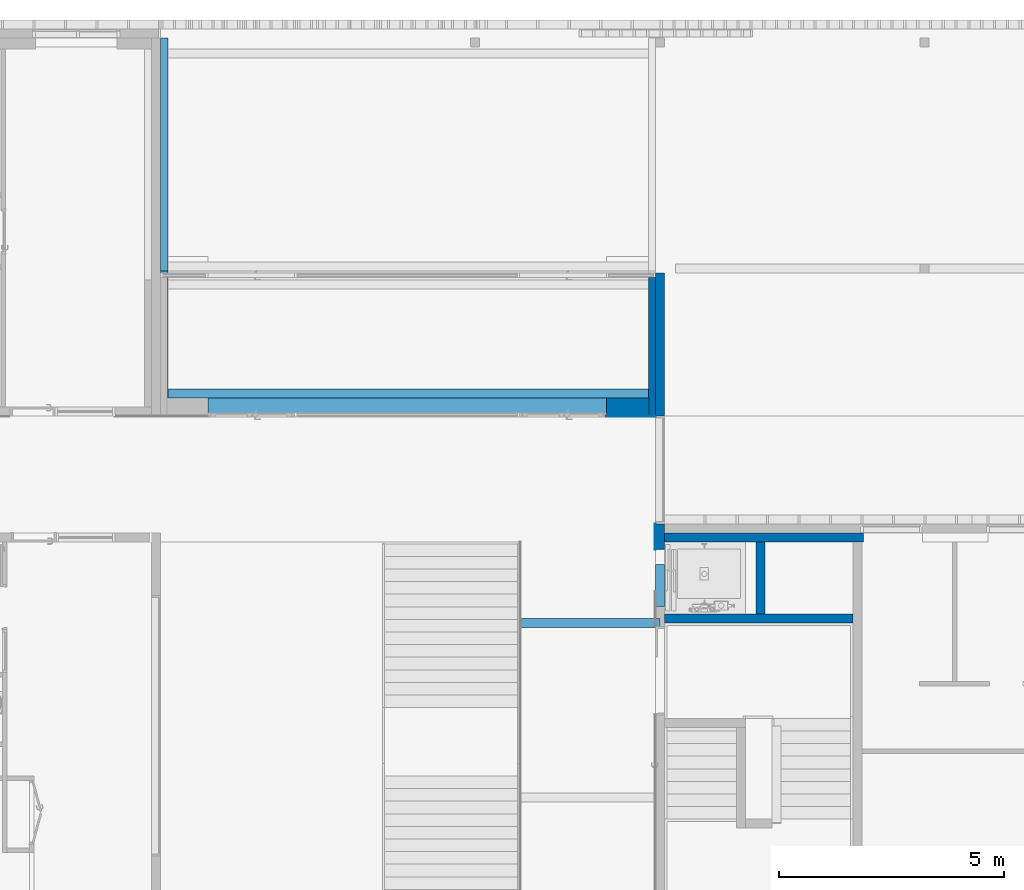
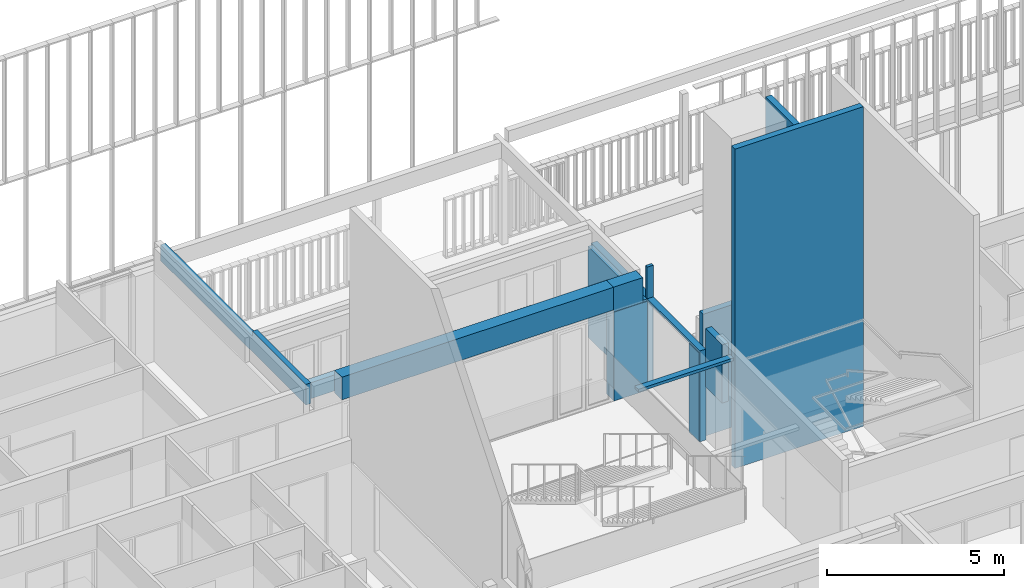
# One storey, part 159 of 240: 13 walls, 3 openings.
"""IFC2X3 building model written with IfcOpenShell, lengths in centimetres."""

import ifcopenshell
import ifcopenshell.guid

model = None  # the IFC model being written
_history = None  # IfcOwnerHistory: only IFC2X3 demands one
_inside = {}  # id of a spatial element -> (the spatial element, [elements in it])
_under = {}  # id of a project, library or spatial element -> (it, [spatial elements below it])
_declared = {}  # id of a project -> (the project, [libraries it declares])
_typed = {}  # id of a type object -> (the type object, [elements of that type])
_made_of = {}  # id of a material, layer set ... -> (it, [elements and type objects made of it])


def new_model(schema):
    """Start an empty IFC model of exactly this schema.

    Asked for "IFC4X3", IfcOpenShell would pick the latest addendum, in which some entities
    have other attributes; the version numbers below select the first issue.
    IFC2X3 requires an IfcOwnerHistory on every rooted entity: one is made here for all.
    """
    global model, _history
    if schema == "IFC4X3":
        model = ifcopenshell.file(schema_version=(4, 3, 0, 0))
    else:
        model = ifcopenshell.file(schema=schema)
    _inside.clear()
    _under.clear()
    _declared.clear()
    _typed.clear()
    _made_of.clear()
    _history = None
    if model.schema == "IFC2X3":
        org = make("IfcOrganization", Name="unknown")
        user = make(
            "IfcPersonAndOrganization",
            ThePerson=make("IfcPerson", FamilyName="unknown"),
            TheOrganization=org,
        )
        app = make(
            "IfcApplication",
            ApplicationDeveloper=org,
            Version="unknown",
            ApplicationFullName="unknown",
            ApplicationIdentifier="unknown",
        )
        _history = make(
            "IfcOwnerHistory",
            OwningUser=user,
            OwningApplication=app,
            ChangeAction="ADDED",
            CreationDate=0,
        )
    return model


def make(cls, **values):
    """One entity of the class cls with the attributes given. An attribute that is None is left unset."""
    return model.create_entity(
        cls, **{name: value for name, value in values.items() if value is not None}
    )


def entity(cls, *values):
    """Any entity or typed value of the class cls, its attributes in the order of the schema. None: left unset."""
    e = model.create_entity(cls)
    for i, value in enumerate(values):
        if value is not None:
            e[i] = value
    return e


def rooted(cls, **values):
    """An entity with a GlobalId (a new one), such as an element, a storey or a relation."""
    return make(cls, GlobalId=ifcopenshell.guid.new(), OwnerHistory=_history, **values)


def si_unit(unit_type, name, prefix=None):
    """IfcSIUnit, for example si_unit("LENGTHUNIT", "METRE", prefix="MILLI")."""
    return make("IfcSIUnit", UnitType=unit_type, Prefix=prefix, Name=name)


def converted_unit(unit_type, name, factor, base, dimensions=None, offset=None):
    """IfcConversionBasedUnit, such as the inch: factor (a typed value) times the base unit."""
    return make(
        "IfcConversionBasedUnit"
        if offset is None
        else "IfcConversionBasedUnitWithOffset",
        ConversionOffset=offset,
        Dimensions=None
        if dimensions is None
        else entity("IfcDimensionalExponents", *dimensions),
        UnitType=unit_type,
        Name=name,
        ConversionFactor=make(
            "IfcMeasureWithUnit", ValueComponent=factor, UnitComponent=base
        ),
    )


def derived_unit(unit_type, elements):
    """IfcDerivedUnit: a product of units, each with its exponent."""
    return make(
        "IfcDerivedUnit",
        Elements=[
            make("IfcDerivedUnitElement", Unit=unit, Exponent=power)
            for unit, power in elements
        ],
        UnitType=unit_type,
    )


def assignment(units):
    """IfcUnitAssignment: the units of a project."""
    return None if units is None else make("IfcUnitAssignment", Units=units)


def point(xyz):
    """IfcCartesianPoint."""
    return None if xyz is None else make("IfcCartesianPoint", Coordinates=xyz)


def direction(xyz):
    """IfcDirection."""
    return None if xyz is None else make("IfcDirection", DirectionRatios=xyz)


def frame(location, z_axis=None, x_axis=None):
    """IfcAxis2Placement3D, a coordinate frame: its origin and axes. An axis left out is left unset."""
    return make(
        "IfcAxis2Placement3D",
        Location=point(location),
        Axis=direction(z_axis),
        RefDirection=direction(x_axis),
    )


def frame_2d(location, x_axis=None):
    """IfcAxis2Placement2D, a coordinate frame in the plane: its origin and x axis."""
    return make(
        "IfcAxis2Placement2D", Location=point(location), RefDirection=direction(x_axis)
    )


def origin():
    """The frame at (0, 0, 0) with its axes left unset."""
    return frame((0.0, 0.0, 0.0))


def place(relative_to, where):
    """IfcLocalPlacement: puts the frame where relative to a parent placement (None: the world)."""
    return make(
        "IfcLocalPlacement", PlacementRelTo=relative_to, RelativePlacement=where
    )


def context(
    kind, dimensions, precision=None, world=None, true_north=None, identifier=None
):
    """IfcGeometricRepresentationContext, for example the 3D "Model" context."""
    return make(
        "IfcGeometricRepresentationContext",
        ContextIdentifier=identifier,
        ContextType=kind,
        CoordinateSpaceDimension=dimensions,
        Precision=precision,
        WorldCoordinateSystem=world,
        TrueNorth=true_north,
    )


def subcontext(parent, identifier, kind, view, scale=None):
    """IfcGeometricRepresentationSubContext, for example "Body" below "Model"."""
    return make(
        "IfcGeometricRepresentationSubContext",
        ContextIdentifier=identifier,
        ContextType=kind,
        ParentContext=parent,
        TargetScale=scale,
        TargetView=view,
    )


def project(units=None, contexts=None):
    """IfcProject with its units and contexts."""
    return rooted(
        "IfcProject",
        Name="project",
        RepresentationContexts=contexts,
        UnitsInContext=assignment(units),
    )


def spatial(cls, under=None, at=None, **own):
    """A site, building, storey or space (cls), placed at a placement, below another one or the project."""
    s = rooted(cls, ObjectPlacement=at, **own)
    if under is not None:
        _under.setdefault(under.id(), (under, []))[1].append(s)
    return s


def polyline(points):
    """IfcPolyline through the points."""
    return make("IfcPolyline", Points=[point(p) for p in points])


def profile(cls, at=None, kind="AREA", **sizes):
    """A parametric profile (cls). Its sizes go by their IFC names, for example OverallWidth=200.0."""
    return make(cls, ProfileType=kind, Position=at, **sizes)


def rectangle(**sizes):
    """IfcRectangleProfileDef."""
    return profile("IfcRectangleProfileDef", **sizes)


def extrude(swept, where, along, depth):
    """IfcExtrudedAreaSolid: the profile swept, set in the frame where, extruded along a direction by depth."""
    return make(
        "IfcExtrudedAreaSolid",
        SweptArea=swept,
        Position=where,
        ExtrudedDirection=direction(along),
        Depth=depth,
    )


def clip(a, b, op="DIFFERENCE"):
    """IfcBooleanClippingResult: the solid a cut by the half space b."""
    return make(
        "IfcBooleanClippingResult", Operator=op, FirstOperand=a, SecondOperand=b
    )


def bounded_halfspace(plane, agree, where, boundary):
    """IfcPolygonalBoundedHalfSpace: a half space limited to a polygon's prism."""
    return make(
        "IfcPolygonalBoundedHalfSpace",
        BaseSurface=make("IfcPlane", Position=plane),
        AgreementFlag=agree,
        Position=where,
        PolygonalBoundary=boundary,
    )


def shape(context_of_items, identifier, shape_type, items):
    """IfcShapeRepresentation: the items that make up one representation, for example the "Body"."""
    return make(
        "IfcShapeRepresentation",
        ContextOfItems=context_of_items,
        RepresentationIdentifier=identifier,
        RepresentationType=shape_type,
        Items=items,
    )


def material(Name=None, Category=None):
    """IfcMaterial."""
    return make("IfcMaterial", Name=Name, Category=Category)


def layer(
    of_material, thickness, ventilated=None, Name=None, Category=None, Priority=None
):
    """IfcMaterialLayer: one layer of a wall or slab, of a material (None: an air gap)."""
    return make(
        "IfcMaterialLayer",
        Material=of_material,
        LayerThickness=thickness,
        IsVentilated=ventilated,
        Name=Name,
        Category=Category,
        Priority=Priority,
    )


def layer_set(layers, Name=None):
    """IfcMaterialLayerSet."""
    return make("IfcMaterialLayerSet", MaterialLayers=layers, LayerSetName=Name)


def layer_usage(for_layer_set, set_direction, sense, offset, extent=None):
    """IfcMaterialLayerSetUsage: how a layer set lies in its element."""
    return make(
        "IfcMaterialLayerSetUsage",
        ForLayerSet=for_layer_set,
        LayerSetDirection=set_direction,
        DirectionSense=sense,
        OffsetFromReferenceLine=offset,
        ReferenceExtent=extent,
    )


def made_of(thing, what):
    """Note that an element or type object is made of a material, layer set ...; save() writes the relation."""
    if what is not None:
        _made_of.setdefault(what.id(), (what, []))[1].append(thing)
    return thing


def type_object(cls, material=None, **own):
    """A type object (cls), such as IfcWallType, which elements share."""
    return made_of(rooted(cls, **own), material)


def element(
    cls,
    number,
    at=None,
    inside=None,
    cuts=None,
    type_object=None,
    material=None,
    context=None,
    identifier="Body",
    shape_type=None,
    held_by="IfcProductDefinitionShape",
    body=None,
    shapes=None,
    **own,
):
    """One element of the class cls, such as IfcWall. Its Tag is "e" and its number.

    at: its placement. inside: the storey or other place that contains it. cuts: it is an
    opening in that element (IfcRelVoidsElement). A single representation is given by context,
    identifier, shape_type and body (its items); several are given by shapes. held_by: the class
    of the entity that holds the representations. save() writes the other relations.
    """
    e = rooted(cls, Tag="e%d" % number, ObjectPlacement=at, **own)
    if body is not None:
        shapes = [shape(context, identifier, shape_type, body)]
    if shapes is not None:
        e.Representation = make(held_by, Representations=shapes)
    if inside is not None:
        _inside.setdefault(inside.id(), (inside, []))[1].append(e)
    if cuts is not None:
        rooted(
            "IfcRelVoidsElement", RelatingBuildingElement=cuts, RelatedOpeningElement=e
        )
    if type_object is not None:
        _typed.setdefault(type_object.id(), (type_object, []))[1].append(e)
    return made_of(e, material)


def aggregate(whole, parts):
    """IfcRelAggregates: a whole, such as a stair, and the parts it consists of."""
    return rooted("IfcRelAggregates", RelatingObject=whole, RelatedObjects=parts)


def save(model, path):
    """Write the relations noted so far, then the file.

    IfcRelAggregates (storeys below a building ...), IfcRelContainedInSpatialStructure (elements
    in a storey), IfcRelDefinesByType, IfcRelAssociatesMaterial and IfcRelDeclares: one each for
    every whole, place, type object, material and project.
    """
    for whole, parts in _under.values():
        aggregate(whole, parts)
    for where, things in _inside.values():
        rooted(
            "IfcRelContainedInSpatialStructure",
            RelatedElements=things,
            RelatingStructure=where,
        )
    for kind, things in _typed.values():
        rooted("IfcRelDefinesByType", RelatedObjects=things, RelatingType=kind)
    for what, things in _made_of.values():
        rooted("IfcRelAssociatesMaterial", RelatedObjects=things, RelatingMaterial=what)
    for by, libraries in _declared.values():
        rooted("IfcRelDeclares", RelatingContext=by, RelatedDefinitions=libraries)
    model.write(path)


model = new_model("IFC2X3")

# Units and contexts
model_context = context("Model", 3, precision=0.001, world=origin(), true_north=direction((6.12303176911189e-17, 1.0)))
body_context = subcontext(model_context, "Body", "Model", "MODEL_VIEW")
ifc_project = project(units=[si_unit("LENGTHUNIT", "METRE", prefix="CENTI"), si_unit("AREAUNIT", "SQUARE_METRE"), si_unit("VOLUMEUNIT", "CUBIC_METRE"), converted_unit("PLANEANGLEUNIT", "DEGREE", entity("IfcRatioMeasure", 0.0174532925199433), si_unit("PLANEANGLEUNIT", "RADIAN"), dimensions=[0, 0, 0, 0, 0, 0, 0]), si_unit("MASSUNIT", "GRAM", prefix="KILO"), derived_unit("MASSDENSITYUNIT", [(si_unit("MASSUNIT", "GRAM", prefix="KILO"), 1), (si_unit("LENGTHUNIT", "METRE"), -3)]), si_unit("TIMEUNIT", "SECOND"), si_unit("FREQUENCYUNIT", "HERTZ"), si_unit("THERMODYNAMICTEMPERATUREUNIT", "DEGREE_CELSIUS"), derived_unit("THERMALTRANSMITTANCEUNIT", [(si_unit("MASSUNIT", "GRAM", prefix="KILO"), 1), (si_unit("THERMODYNAMICTEMPERATUREUNIT", "KELVIN"), -1), (si_unit("TIMEUNIT", "SECOND"), -3)]), derived_unit("VOLUMETRICFLOWRATEUNIT", [(si_unit("LENGTHUNIT", "METRE"), 3), (si_unit("TIMEUNIT", "SECOND"), -1)]), si_unit("ELECTRICCURRENTUNIT", "AMPERE"), si_unit("ELECTRICVOLTAGEUNIT", "VOLT"), si_unit("POWERUNIT", "WATT"), si_unit("FORCEUNIT", "NEWTON", prefix="KILO"), si_unit("ILLUMINANCEUNIT", "LUX"), si_unit("LUMINOUSFLUXUNIT", "LUMEN"), si_unit("LUMINOUSINTENSITYUNIT", "CANDELA"), derived_unit("USERDEFINED", [(si_unit("MASSUNIT", "GRAM", prefix="KILO"), -1), (si_unit("LENGTHUNIT", "METRE"), -2), (si_unit("TIMEUNIT", "SECOND"), 3), (si_unit("LUMINOUSFLUXUNIT", "LUMEN"), 1)]), derived_unit("LINEARVELOCITYUNIT", [(si_unit("LENGTHUNIT", "METRE"), 1), (si_unit("TIMEUNIT", "SECOND"), -1)]), si_unit("PRESSUREUNIT", "PASCAL"), derived_unit("USERDEFINED", [(si_unit("LENGTHUNIT", "METRE"), -2), (si_unit("MASSUNIT", "GRAM", prefix="KILO"), 1), (si_unit("TIMEUNIT", "SECOND"), -2)])], contexts=[model_context])

# Site, building, storey
site_placement = place(None, frame((-2781.94577612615, 7442.24238424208, 0.0)))
site = spatial("IfcSite", under=ifc_project, at=site_placement, Name="Default", CompositionType="ELEMENT")
building_placement = place(site_placement, origin())
building = spatial("IfcBuilding", under=site, at=building_placement, CompositionType="ELEMENT")
storey_placement = place(building_placement, origin())
storey = spatial("IfcBuildingStorey", under=building, at=storey_placement, Name="N00 - COO", CompositionType="ELEMENT", Elevation=0.0)

# Walls
ifc_material_1 = material(Name="01 - Maçonnerie")
ifc_layer_1 = layer(ifc_material_1, 20.0)
ifc_layer_set_1 = layer_set([ifc_layer_1], Name="Mur de base:04 - Structure - béton - 20cm")
ifc_layer_usage_1 = layer_usage(ifc_layer_set_1, "AXIS2", "NEGATIVE", 10.0)
wall_type_1 = type_object("IfcWallType", Name="Mur de base:04 - Structure - béton - 20cm", PredefinedType="STANDARD", material=ifc_layer_set_1)
wall_1_placement = place(building_placement, frame((-3647.99987968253, -1280.07903364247, 0.0)))
element("IfcWallStandardCase", 1, at=wall_1_placement, inside=storey, type_object=wall_type_1, material=ifc_layer_usage_1, Name="Mur de base:04 - Structure - béton - 20cm", ObjectType="Mur de base:04 - Structure - béton - 20cm", context=body_context, shape_type="SweptSolid", body=[
    extrude(rectangle(XDim=418.699996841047, YDim=19.9999999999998, at=frame_2d((209.349998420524, 3.10862446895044e-14), x_axis=(-1.0, 0.0))), origin(), (0.0, 0.0, 1.0), 1100.0),
])
ifc_layer_usage_2 = layer_usage(ifc_layer_set_1, "AXIS2", "NEGATIVE", 10.0)
wall_2_placement = place(building_placement, frame((-3434.49987968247, -1270.07903364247, 0.0), z_axis=(0.0, 0.0, 1.0), x_axis=(0.0, 1.0, 0.0)))
element("IfcWallStandardCase", 2, at=wall_2_placement, inside=storey, type_object=wall_type_1, material=ifc_layer_usage_2, Name="Mur de base:04 - Structure - béton - 20cm", ObjectType="Mur de base:04 - Structure - béton - 20cm", context=body_context, shape_type="Clipping", body=[
    clip(extrude(rectangle(XDim=160.079033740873, YDim=19.9999999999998, at=frame_2d((80.0395168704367, -2.30926389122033e-14), x_axis=(-1.0, 0.0))), origin(), (0.0, 0.0, 1.0), 1100.0), bounded_halfspace(frame((0.0, -10.0, 1100.0), z_axis=(0.0, 0.0, 1.0), x_axis=(-1.0, 0.0, 0.0)), False, frame((0.0, -10.0, 1100.0)), polyline([(0.0, 0.0), (160.079033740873, 0.0), (160.07903374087, 20.0), (0.0, 20.0), (0.0, 0.0)]))),
])
ifc_layer_usage_3 = layer_usage(ifc_layer_set_1, "AXIS2", "NEGATIVE", 10.0)
wall_3_placement = place(building_placement, frame((-3205.99987968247, -1100.0, 0.0), z_axis=(0.0, 0.0, 1.0), x_axis=(-1.0, 0.0, 0.0)))
element("IfcWallStandardCase", 3, at=wall_3_placement, inside=storey, type_object=wall_type_1, material=ifc_layer_usage_3, Name="Mur de base:04 - Structure - béton - 20cm", ObjectType="Mur de base:04 - Structure - béton - 20cm", context=body_context, shape_type="SweptSolid", body=[
    extrude(rectangle(XDim=442.0, YDim=19.9999999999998, at=frame_2d((221.0, 0.0), x_axis=(-1.0, 0.0))), origin(), (0.0, 0.0, 1.0), 422.0),
])

# Wall, openings
ifc_layer_usage_4 = layer_usage(ifc_layer_set_1, "AXIS2", "NEGATIVE", 10.0)
wall_4_placement = place(building_placement, frame((-3657.99987968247, -512.548500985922, 0.0), z_axis=(0.0, 0.0, 1.0), x_axis=(0.0, -1.0, 0.0)))
wall_4 = element("IfcWallStandardCase", 4, at=wall_4_placement, inside=storey, type_object=wall_type_1, material=ifc_layer_usage_4, Name="Mur de base:04 - Structure - béton - 20cm", ObjectType="Mur de base:04 - Structure - béton - 20cm", context=body_context, shape_type="Clipping", body=[
    clip(clip(clip(clip(extrude(rectangle(XDim=614.358269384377, YDim=19.9999999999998, at=frame_2d((307.179134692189, 3.5527136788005e-15), x_axis=(-1.0, 0.0))), origin(), (0.0, 0.0, 1.0), 422.0), bounded_halfspace(frame((0.0, -10.0, 313.0), z_axis=(0.0, 0.0, -1.0), x_axis=(0.0, 1.0, 0.0)), True, frame((0.0, -10.0, 313.0)), polyline([(0.0, 0.0), (10.0, 0.0), (307.499999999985, 0.0), (307.499999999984, 20.0), (0.0, 20.0), (0.0, 0.0)]))), bounded_halfspace(frame((307.499999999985, -10.0, 422.0), z_axis=(0.0, 0.0, 1.0), x_axis=(0.0, 1.0, 0.0)), False, frame((307.499999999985, -10.0, 422.0)), polyline([(0.0, 0.0), (10.0, 0.0), (10.0, 20.0), (0.0, 20.0), (0.0, 0.0)]))), bounded_halfspace(frame((614.358269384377, -10.0, 313.0), z_axis=(0.0, 0.0, 1.0), x_axis=(0.0, 1.0, 0.0)), False, frame((614.358269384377, -10.0, 313.0)), polyline([(0.0, 0.0), (0.0, 20.0), (-0.899999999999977, 20.0), (-296.858269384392, 20.0), (-296.858269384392, 0.0), (-0.899999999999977, 0.0), (0.0, 0.0)]))), bounded_halfspace(frame((0.0, -10.0, 313.0), z_axis=(0.0, 0.0, -1.0), x_axis=(0.0, 1.0, 0.0)), True, frame((0.0, -10.0, 313.0)), polyline([(0.0, 0.0), (10.0, 0.0), (307.499999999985, 0.0), (307.499999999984, 20.0), (0.0, 20.0), (0.0, 0.0)]))),
])
opening_1_placement = place(wall_4_placement, origin())
element("IfcOpeningElement", 5, at=opening_1_placement, cuts=wall_4, Name="Mur de base:04 - Structure - béton - 20cm", ObjectType="Opening", context=body_context, shape_type="SweptSolid", body=[
    extrude(rectangle(XDim=270.0, YDim=239.951498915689, at=frame_2d((0.0, 4.2632564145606e-14), x_axis=(0.0, 1.0))), frame((437.47574945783, -142.4, 557.0), z_axis=(0.0, 1.0, 0.0), x_axis=(-1.0, 0.0, 0.0)), (0.0, 0.0, 1.0), 304.8),
])
opening_2_placement = place(wall_4_placement, frame((557.451498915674, 10.0, 0.0)))
element("IfcOpeningElement", 6, at=opening_2_placement, cuts=wall_4, Name="châssis intérieur vitré:RDC - Pignon -  châssis intérieur vitré (3.11m):1", ObjectType="Opening", context=body_context, shape_type="SweptSolid", body=[
    extrude(rectangle(XDim=306.0, YDim=239.951498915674, at=frame_2d((153.0, 119.975749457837), x_axis=(1.0, 0.0))), frame((0.0, 0.0, 0.0), z_axis=(0.0, -1.0, 0.0), x_axis=(0.0, 0.0, 1.0)), (0.0, 0.0, 1.0), 20.0),
])

# Wall
ifc_layer_usage_5 = layer_usage(ifc_layer_set_1, "AXIS2", "NEGATIVE", 10.0)
wall_5_placement = place(building_placement, frame((-3657.99987968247, -1253.37226317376, 210.0), z_axis=(0.0, 0.0, 1.0), x_axis=(0.0, 1.0, 0.0)))
element("IfcWallStandardCase", 7, at=wall_5_placement, inside=storey, type_object=wall_type_1, material=ifc_layer_usage_5, Name="Mur de base:04 - Structure - béton - 20cm", ObjectType="Mur de base:04 - Structure - béton - 20cm", context=body_context, shape_type="SweptSolid", body=[
    extrude(rectangle(XDim=93.8237621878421, YDim=19.9999999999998, at=frame_2d((46.9118810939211, 0.0), x_axis=(-1.0, 0.0))), origin(), (0.0, 0.0, 1.0), 201.007569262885),
])

# Wall, opening
ifc_layer_2 = layer(ifc_material_1, 40.0)
ifc_layer_set_2 = layer_set([ifc_layer_2], Name="Mur de base:04 - Structure - Béton - 40")
ifc_layer_usage_6 = layer_usage(ifc_layer_set_2, "AXIS2", "NEGATIVE", 20.0)
wall_type_2 = type_object("IfcWallType", Name="Mur de base:04 - Structure - Béton - 40", PredefinedType="STANDARD", material=ifc_layer_set_2)
wall_6_placement = place(building_placement, frame((-3681.99987968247, -810.048500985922, 0.0), z_axis=(0.0, 0.0, 1.0), x_axis=(-1.0, 0.0, 0.0)))
wall_6 = element("IfcWallStandardCase", 8, at=wall_6_placement, inside=storey, type_object=wall_type_2, material=ifc_layer_usage_6, Name="Mur de base:04 - Structure - Béton - 40", ObjectType="Mur de base:04 - Structure - Béton - 40", context=body_context, shape_type="Clipping", body=[
    clip(extrude(rectangle(XDim=95.2629547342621, YDim=40.0, at=frame_2d((47.631477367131, 0.0), x_axis=(-1.0, 0.0))), origin(), (0.0, 0.0, 1.0), 391.0), bounded_halfspace(frame((0.0, -20.0, 391.0), z_axis=(0.0, 0.0, -1.0), x_axis=(0.0, -1.0, 0.0)), True, frame((0.0, -20.0, 391.0)), polyline([(0.0, 0.0), (2.0, 0.0), (95.2629547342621, 0.0), (95.262954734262, 40.0), (0.0, 40.0), (0.0, 0.0)]))),
])
opening_3_placement = place(wall_6_placement, origin())
element("IfcOpeningElement", 9, at=opening_3_placement, cuts=wall_6, Name="Mur de base:04 - Structure - Béton - 40", ObjectType="Opening", context=body_context, shape_type="SweptSolid", body=[
    extrude(rectangle(XDim=321.0, YDim=192.75704526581, at=frame_2d((0.0, 4.33431068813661e-13), x_axis=(1.0, 0.0))), frame((191.621477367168, 11.8999999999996, 145.5), z_axis=(0.0, 1.0, 0.0), x_axis=(0.0, 0.0, -1.0)), (0.0, 0.0, 1.0), 61.1877456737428),
])

# Walls
ifc_layer_usage_7 = layer_usage(ifc_layer_set_2, "AXIS2", "NEGATIVE", 20.0)
wall_7_placement = place(storey_placement, frame((-3777.26283441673, -810.048500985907, 313.0), z_axis=(0.0, 0.0, 1.0), x_axis=(-1.0, 0.0, 0.0)))
element("IfcWallStandardCase", 10, at=wall_7_placement, inside=storey, type_object=wall_type_2, material=ifc_layer_usage_7, Name="Mur de base:04 - Structure - Béton - 40", ObjectType="Mur de base:04 - Structure - Béton - 40", context=body_context, shape_type="SweptSolid", body=[
    extrude(rectangle(XDim=885.494090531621, YDim=40.0, at=frame_2d((442.74704526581, 0.0), x_axis=(-1.0, 0.0))), origin(), (0.0, 0.0, 1.0), 78.0000000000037),
])
ifc_material_2 = material(Name="00 - Isolant")
ifc_layer_3 = layer(ifc_material_2, 16.0)
ifc_layer_set_3 = layer_set([ifc_layer_3], Name="Mur de base:04 - retour isolation acrotère - ITE 16cm")
ifc_layer_usage_8 = layer_usage(ifc_layer_set_3, "AXIS2", "NEGATIVE", 8.0)
wall_type_3 = type_object("IfcWallType", Name="Mur de base:04 - retour isolation acrotère - ITE 16cm", PredefinedType="STANDARD", material=ifc_layer_set_3)
wall_8_placement = place(storey_placement, frame((-4759.99987760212, 10.0, 320.0), z_axis=(0.0, 0.0, 1.0), x_axis=(0.0, -1.0, 0.0)))
element("IfcWallStandardCase", 11, at=wall_8_placement, inside=storey, type_object=wall_type_3, material=ifc_layer_usage_8, Name="Mur de base:04 - retour isolation acrotère - ITE 16cm", ObjectType="Mur de base:04 - retour isolation acrotère - ITE 16cm", context=body_context, shape_type="Clipping", body=[
    clip(clip(extrude(rectangle(XDim=820.048500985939, YDim=15.9999999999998, at=frame_2d((410.024250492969, 2.1360690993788e-13), x_axis=(-1.0, 0.0))), origin(), (0.0, 0.0, 1.0), 70.9999999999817), bounded_halfspace(frame((517.548500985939, -8.0, 55.0), z_axis=(0.0, 0.0, -1.0), x_axis=(1.0, 0.0, 0.0)), True, frame((517.548500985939, -8.0, 55.0), z_axis=(0.0, 0.0, -1.0), x_axis=(1.0, 0.0, 0.0)), polyline([(0.0, 0.0), (-517.548500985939, 0.0), (-517.548500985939, -16.0), (0.0, -16.0), (0.0, 0.0)]))), bounded_halfspace(frame((517.548500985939, 8.0, 55.0), z_axis=(1.0, 0.0, 0.0), x_axis=(0.0, 0.0, 1.0)), True, frame((517.548500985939, 8.0, 55.0), z_axis=(1.0, 0.0, 0.0), x_axis=(0.0, 0.0, 1.0)), polyline([(0.0, 0.0), (16.0, 0.0), (16.0, 16.0), (0.0, 16.0), (0.0, 0.0)]))),
])
ifc_material_3 = material(Name="Pin")
ifc_layer_4 = layer(ifc_material_3, 2.0)
ifc_layer_set_4 = layer_set([ifc_layer_4], Name="Mur de base:06 - habillage bois collée 2cm")
ifc_layer_usage_9 = layer_usage(ifc_layer_set_4, "AXIS2", "NEGATIVE", 1.0)
wall_type_4 = type_object("IfcWallType", Name="Mur de base:06 - habillage bois collée 2cm", PredefinedType="STANDARD", material=ifc_layer_set_4)
wall_9_placement = place(storey_placement, frame((-3777.24283441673, -831.048500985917, 0.0)))
element("IfcWallStandardCase", 12, at=wall_9_placement, inside=storey, type_object=wall_type_4, material=ifc_layer_usage_9, Name="Mur de base:06 - habillage bois collée 2cm", ObjectType="Mur de base:06 - habillage bois collée 2cm", context=body_context, shape_type="SweptSolid", body=[
    extrude(rectangle(XDim=109.242954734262, YDim=1.99999999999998, at=frame_2d((54.621477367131, 7.93809462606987e-15), x_axis=(-1.0, 0.0))), origin(), (0.0, 0.0, 1.0), 306.0),
])
ifc_layer_usage_10 = layer_usage(ifc_layer_set_4, "AXIS2", "NEGATIVE", 1.0)
wall_10_placement = place(storey_placement, frame((-3668.99987968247, -1070.0, 0.0), z_axis=(0.0, 0.0, 1.0), x_axis=(0.0, -1.0, 0.0)))
element("IfcWallStandardCase", 13, at=wall_10_placement, inside=storey, type_object=wall_type_4, material=ifc_layer_usage_10, Name="Mur de base:06 - habillage bois collée 2cm", ObjectType="Mur de base:06 - habillage bois collée 2cm", context=body_context, shape_type="SweptSolid", body=[
    extrude(rectangle(XDim=56.9067704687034, YDim=2.00000000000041, at=frame_2d((28.4533852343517, 0.0), x_axis=(-1.0, 0.0))), origin(), (0.0, 0.0, 1.0), 306.0),
])
ifc_material_4 = material(Name="01 - Enduit/Plâtre")
ifc_layer_5 = layer(ifc_material_4, 1.3)
ifc_layer_6 = layer(ifc_material_2, 14.0)
ifc_layer_set_5 = layer_set([ifc_layer_5, ifc_layer_6], Name="Mur de base:04 - Parement - ITI 14cm")
ifc_layer_usage_11 = layer_usage(ifc_layer_set_5, "AXIS2", "POSITIVE", -7.65)
wall_type_5 = type_object("IfcWallType", Name="Mur de base:04 - Parement - ITI 14cm", PredefinedType="STANDARD", material=ifc_layer_set_5)
wall_11_placement = place(building_placement, frame((-3675.64987968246, -522.548500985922, 0.0), z_axis=(0.0, 0.0, 1.0), x_axis=(0.0, -1.0, 0.0)))
element("IfcWallStandardCase", 14, at=wall_11_placement, inside=storey, type_object=wall_type_5, material=ifc_layer_usage_11, Name="Mur de base:04 - Parement - ITI 14cm", ObjectType="Mur de base:04 - Parement - ITI 14cm", context=body_context, shape_type="SweptSolid", body=[
    extrude(rectangle(XDim=307.5, YDim=15.3, at=frame_2d((153.75, 0.0), x_axis=(-1.0, 0.0))), origin(), (0.0, 0.0, 1.0), 313.0),
])
ifc_layer_7 = layer(ifc_material_1, 20.0)
ifc_layer_set_6 = layer_set([ifc_layer_7], Name="Mur de base:04 - Structure - Poutre béton - (20x25 ht)")
ifc_layer_usage_12 = layer_usage(ifc_layer_set_6, "AXIS2", "NEGATIVE", 10.0)
wall_type_6 = type_object("IfcWallType", Name="Mur de base:04 - Structure - Poutre béton - (20x25 ht)", PredefinedType="STANDARD", material=ifc_layer_set_6)
wall_12_placement = place(storey_placement, frame((-3657.99987968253, -1290.07903364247, 381.0), z_axis=(0.0, 0.0, 1.0), x_axis=(-1.0, 0.0, 0.0)))
element("IfcWallStandardCase", 15, at=wall_12_placement, inside=storey, type_object=wall_type_6, material=ifc_layer_usage_12, Name="Mur de base:04 - Structure - Poutre béton - (20x25 ht)", ObjectType="Mur de base:04 - Structure - Poutre béton - (20x25 ht)", context=body_context, shape_type="SweptSolid", body=[
    extrude(rectangle(XDim=310.000000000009, YDim=19.9999999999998, at=frame_2d((155.000000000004, 1.24344978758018e-14), x_axis=(-1.0, 0.0))), origin(), (0.0, 0.0, 1.0), 10.0000000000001),
])
ifc_layer_8 = layer(ifc_material_2, 20.0)
ifc_layer_set_7 = layer_set([ifc_layer_8], Name="Mur de base:04 - retour isolation acrotère - ITE 20 cm")
ifc_layer_usage_13 = layer_usage(ifc_layer_set_7, "AXIS2", "NEGATIVE", 10.0)
wall_type_7 = type_object("IfcWallType", Name="Mur de base:04 - retour isolation acrotère - ITE 20 cm", PredefinedType="STANDARD", material=ifc_layer_set_7)
wall_13_placement = place(storey_placement, frame((-4767.99987760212, -780.048500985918, 320.0)))
element("IfcWallStandardCase", 16, at=wall_13_placement, inside=storey, type_object=wall_type_7, material=ifc_layer_usage_13, Name="Mur de base:04 - retour isolation acrotère - ITE 20 cm", ObjectType="Mur de base:04 - retour isolation acrotère - ITE 20 cm", context=body_context, shape_type="Clipping", body=[
    clip(extrude(rectangle(XDim=1099.99999791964, YDim=20.0, at=frame_2d((549.99999895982, 3.10862446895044e-14), x_axis=(-1.0, 0.0))), origin(), (0.0, 0.0, 1.0), 55.0000000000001), bounded_halfspace(frame((0.0, -10.0, 55.0), z_axis=(0.0, 0.0, -1.0), x_axis=(0.0, -1.0, 0.0)), True, frame((0.0, -10.0, 55.0), z_axis=(0.0, 0.0, -1.0), x_axis=(0.0, -1.0, 0.0)), polyline([(0.0, 0.0), (-20.0, 0.0), (-20.0, -1100.0), (0.0, -1100.0), (0.0, 0.0)]))),
])

save(model, "model.ifc")
